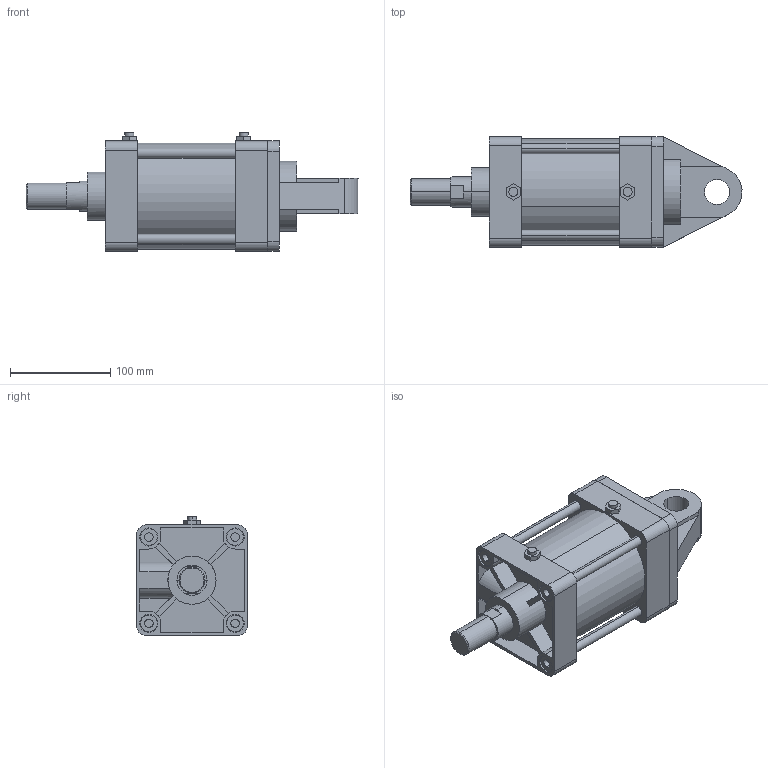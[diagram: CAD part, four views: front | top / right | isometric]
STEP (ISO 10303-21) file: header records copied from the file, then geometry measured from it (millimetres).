
FILE_DESCRIPTION (( 'STEP AP203' ), '1' );
FILE_NAME ('KG2-100-50-C.STEP', '2016-04-01T08:23:01', ( '' ), ( '' ), 'SwSTEP 2.0', 'SolidWorks 2014', '' );
FILE_SCHEMA (( 'CONFIG_CONTROL_DESIGN' ));
Length unit declared in the file: millimetre
Products named in the file (7): KG2-100-50-C; KG2-100-After; K-100-C; KGLH2-100-50
Assembly tree (16 placements, depth 2):
  KG2-100-50-C
    KG2-100-After
    KGLH2-100-50
    (unnamed)
    (unnamed)  x4
    (unnamed)  x8
    K-100-C
Bounding box: 330.91 x 110 x 118.3 mm (x, y, z)
Volume: 1817907.3 mm3; surface area: 252094.2 mm2
Topology: 16 solids, 16 shells, 344 faces, 824 edges, 528 vertices
Faces by surface type: plane 153, cylinder 133, torus 32, cone 26
Entity records: 8730 total; most frequent: CARTESIAN_POINT 1405, DIRECTION 1394, ORIENTED_EDGE 1268, EDGE_CURVE 634, AXIS2_PLACEMENT_3D 509, VERTEX_POINT 418, LINE 376, VECTOR 376
